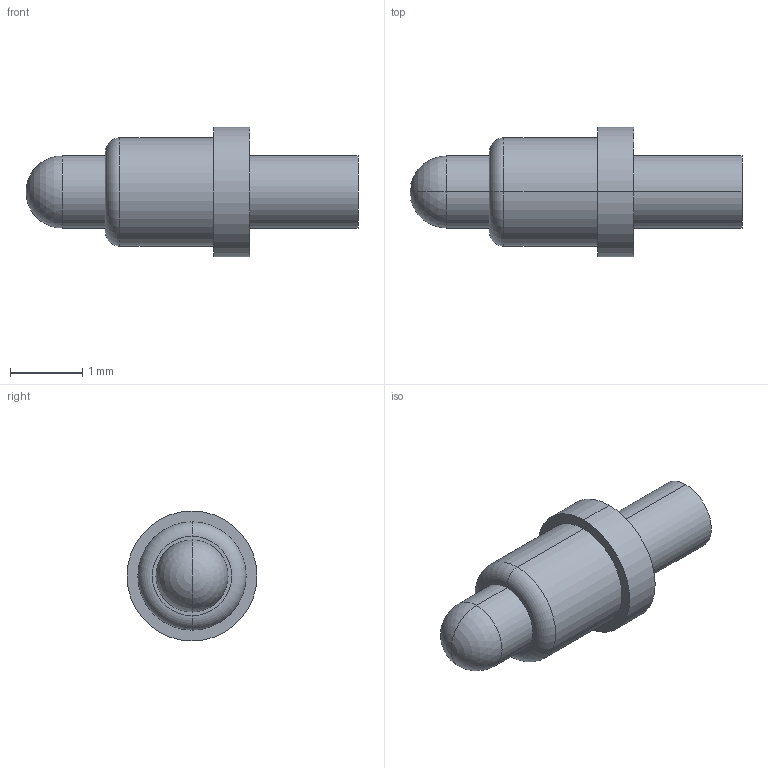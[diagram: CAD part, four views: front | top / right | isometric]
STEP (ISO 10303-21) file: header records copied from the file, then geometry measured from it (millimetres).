
FILE_DESCRIPTION((''),'2;1');
FILE_NAME('PRT0001','2023-05-26T09:44:17',('USER'),(''),'CREO PARAMETRIC BY PTC INC, 2020154','CREO PARAMETRIC BY PTC INC, 2020154','');
FILE_SCHEMA(('CONFIG_CONTROL_DESIGN'));
Length unit declared in the file: millimetre
Products named in the file (1): PRT0001
Bounding box: 4.6 x 1.8 x 1.8 mm (x, y, z)
Volume: 5.8 mm3; surface area: 21.9 mm2
Topology: 1 solids, 1 shells, 16 faces, 32 edges, 19 vertices
Faces by surface type: cylinder 8, plane 4, torus 2, sphere 2
Entity records: 450 total; most frequent: DIRECTION 84, CARTESIAN_POINT 65, ORIENTED_EDGE 60, AXIS2_PLACEMENT_3D 38, EDGE_CURVE 30, CIRCLE 22, VERTEX_POINT 19, EDGE_LOOP 19
